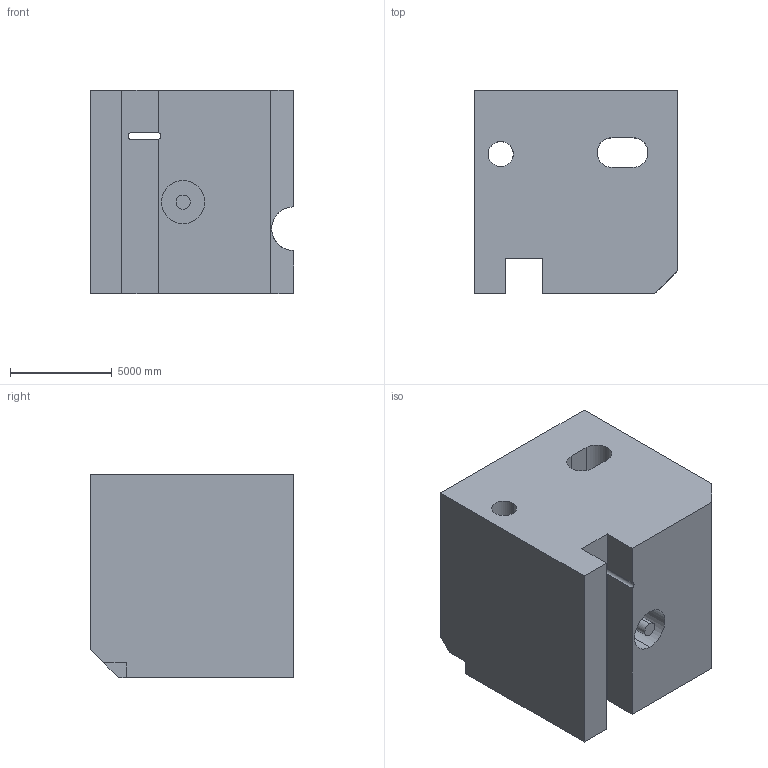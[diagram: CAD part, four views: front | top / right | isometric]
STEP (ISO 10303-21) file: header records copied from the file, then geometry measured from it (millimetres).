
FILE_DESCRIPTION (( 'STEP AP203' ), '1' );
FILE_NAME ('186.STEP', '2022-09-05T16:02:54', ( 'user' ), ( '' ), 'SwSTEP 2.0', 'SolidWorks 2021', '' );
FILE_SCHEMA (( 'CONFIG_CONTROL_DESIGN' ));
Length unit declared in the file: centimetre
Products named in the file (1): 186
Bounding box: 10000 x 10000 x 10000 mm (x, y, z)
Volume: 864774058481.6 mm3; surface area: 808242484.6 mm2
Topology: 1 solids, 1 shells, 35 faces, 99 edges, 66 vertices
Faces by surface type: plane 23, cylinder 12
Entity records: 1455 total; most frequent: CARTESIAN_POINT 432, ORIENTED_EDGE 198, DIRECTION 193, EDGE_CURVE 99, VECTOR 71, LINE 71, VERTEX_POINT 66, AXIS2_PLACEMENT_3D 61
